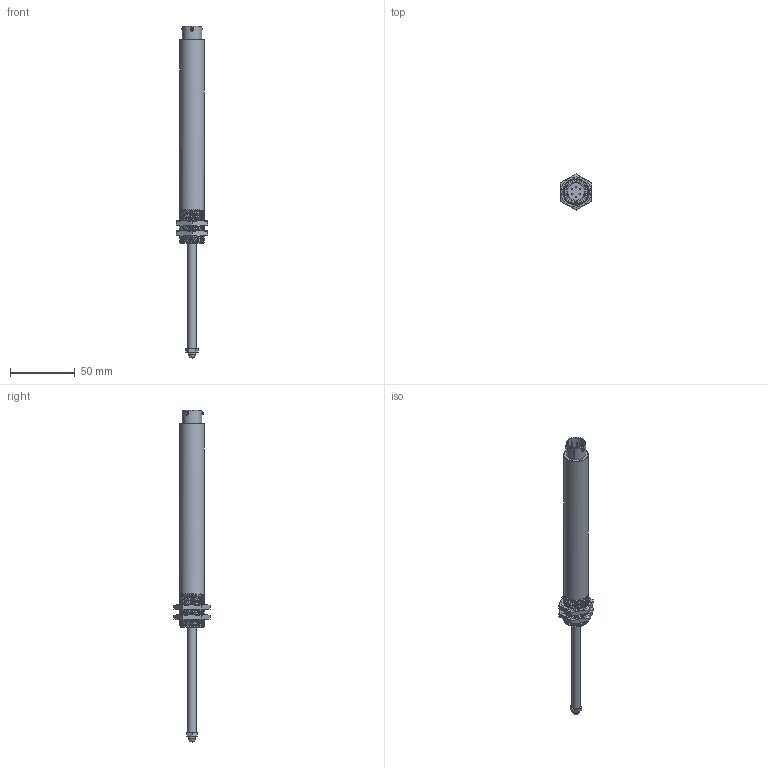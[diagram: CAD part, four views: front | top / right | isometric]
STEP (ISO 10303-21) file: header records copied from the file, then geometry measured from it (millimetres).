
FILE_DESCRIPTION(/* description */ (''),/* implementation_level */ '2;1');
FILE_NAME(/* name */ 'ILPS-18S-075-A-02-YY-Z.stp',/* time_stamp */ '2026-01-27T15:14:44-05:00',/* author */ ('wingm'),/* organization */ (''),/* preprocessor_version */ 'ST-DEVELOPER v20.1',/* originating_system */ 'Autodesk Inventor 2026',/* authorisation */ '');
FILE_SCHEMA (('AUTOMOTIVE_DESIGN { 1 0 10303 214 3 1 1 }'));
Length unit declared in the file: inch
Products named in the file (8): Assembly1; Body; End Cap; Shaft; Lining; PT02-10; Hex Nut; #9540
Assembly tree (8 placements, depth 2):
  Assembly1
    Body
    End Cap
    Shaft
    Lining
    PT02-10
    Hex Nut  x2
    #9540
Bounding box: 24 x 27.71 x 255.52 mm (x, y, z)
Volume: 14392.9 mm3; surface area: 29160.3 mm2
Topology: 15 solids, 15 shells, 168 faces, 364 edges, 242 vertices
Faces by surface type: plane 75, cylinder 69, cone 10, bspline 10, torus 3, sphere 1
Full cylindrical faces by diameter (mm): 0.762 x6, 1.905 x1, 2.032 x3, 2.845 x3, 3.048 x3, 5.08 x1, 6.35 x2, 6.858 x2, 13.208 x1, 14.986 x1, 17.069 x3, 18.415 x2, 19.05 x28
Entity records: 9522 total; most frequent: CARTESIAN_POINT 6001, ORIENTED_EDGE 632, DIRECTION 630, EDGE_CURVE 316, AXIS2_PLACEMENT_3D 249, VERTEX_POINT 211, EDGE_LOOP 171, FACE_OUTER_BOUND 149
